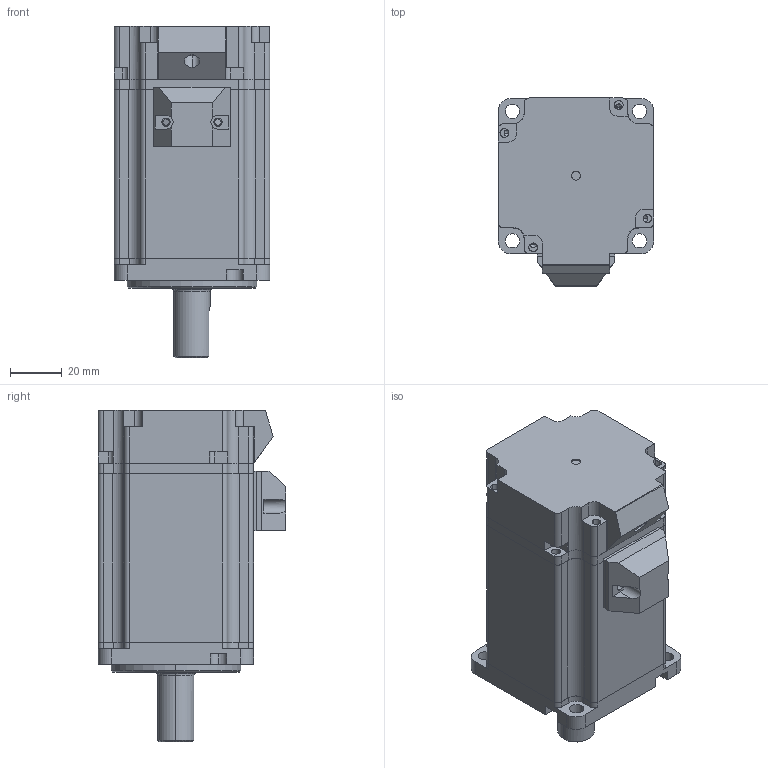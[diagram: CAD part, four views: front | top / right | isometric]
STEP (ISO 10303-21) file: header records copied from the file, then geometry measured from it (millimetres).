
FILE_DESCRIPTION (( 'STEP AP214' ), '1' );
FILE_NAME ('RSNA-M06J1330A .STEP', '2022-01-14T07:18:13', ( '' ), ( '' ), 'SwSTEP 2.0', 'SolidWorks 2020', '' );
FILE_SCHEMA (( 'AUTOMOTIVE_DESIGN' ));
Length unit declared in the file: millimetre
Products named in the file (12): S60DG-B-004DY; 6202ZZ粣創; 侜督揤盄裔々杶; RSNA-M06J1330A ; 侜督揤盄裔; S60DG-A-002DY; 綴欶; 60SF400-K1444-008; S60-H65-001; 6000ZZ粣創; 隅赽; 666
Assembly tree (11 placements, depth 2):
  RSNA-M06J1330A 
    S60-H65-001
    6000ZZ粣創
    60SF400-K1444-008
    6202ZZ粣創
    666
    S60DG-A-002DY
    S60DG-B-004DY
    隅赽
    侜督揤盄裔々杶
    侜督揤盄裔
    綴欶
Bounding box: 60 x 72.5 x 127.9 mm (x, y, z)
Volume: 253674.8 mm3; surface area: 111806.8 mm2
Topology: 13 solids, 13 shells, 635 faces, 1658 edges, 1063 vertices
Faces by surface type: cylinder 330, plane 234, cone 55, torus 16
Entity records: 21068 total; most frequent: CARTESIAN_POINT 3905, DIRECTION 3512, ORIENTED_EDGE 3252, EDGE_CURVE 1626, AXIS2_PLACEMENT_3D 1336, VERTEX_POINT 1063, LINE 840, VECTOR 840
